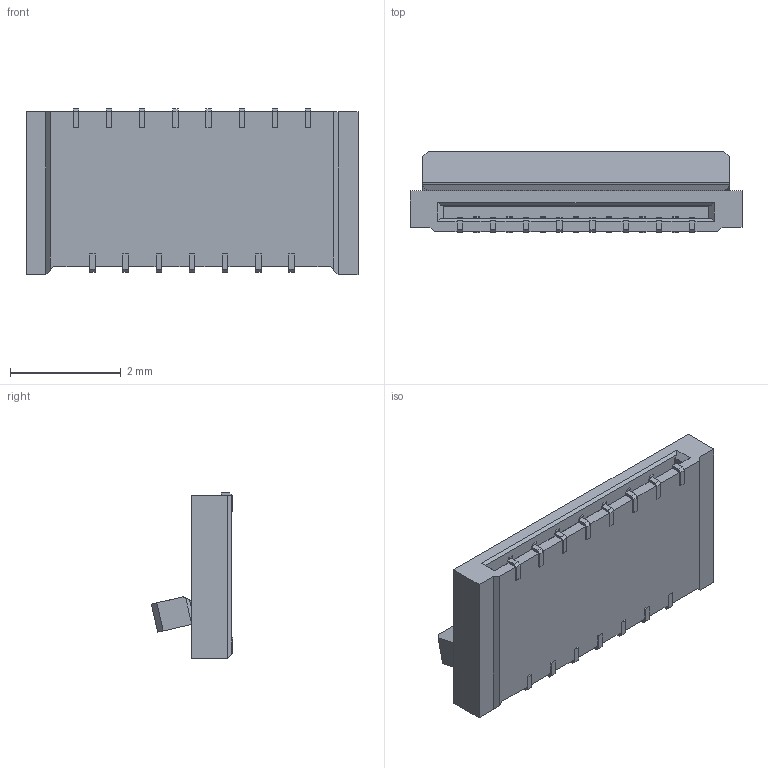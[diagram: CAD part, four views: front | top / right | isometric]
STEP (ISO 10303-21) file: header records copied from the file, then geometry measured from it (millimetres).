
FILE_DESCRIPTION((''),'2;1');
FILE_NAME('5047541520','2019-04-10T',('gga'),(''),'PRO/ENGINEER BY PARAMETRIC TECHNOLOGY CORPORATION, 2016010','PRO/ENGINEER BY PARAMETRIC TECHNOLOGY CORPORATION, 2016010','');
FILE_SCHEMA(('CONFIG_CONTROL_DESIGN'));
Length unit declared in the file: millimetre
Products named in the file (1): 5047541520
Bounding box: 6 x 1.47 x 3 mm (x, y, z)
Volume: 10.4 mm3; surface area: 82 mm2
Topology: 1 solids, 1 shells, 640 faces, 1946 edges, 1310 vertices
Faces by surface type: plane 509, cylinder 131
Entity records: 21575 total; most frequent: CARTESIAN_POINT 3842, ORIENTED_EDGE 3772, DIRECTION 3488, EDGE_CURVE 1886, VECTOR 1682, LINE 1682, VERTEX_POINT 1250, AXIS2_PLACEMENT_3D 903
